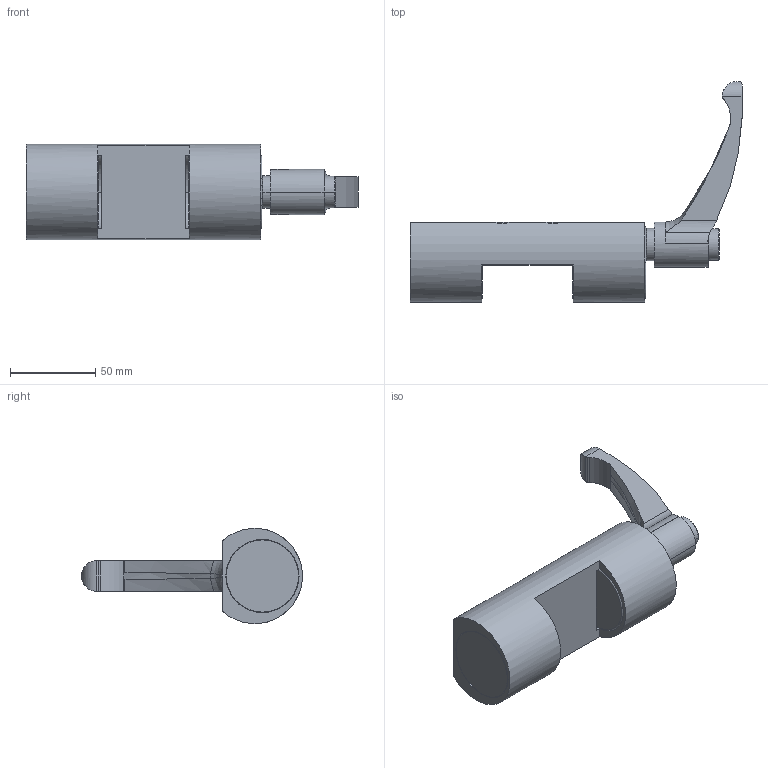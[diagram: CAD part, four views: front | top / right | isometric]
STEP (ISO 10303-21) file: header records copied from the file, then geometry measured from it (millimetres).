
FILE_DESCRIPTION((''),'2;1');
FILE_NAME('FRCMAN55T02LT_SW0001','2016-12-27T',('anacleto.m'),(''),'CREO PARAMETRIC BY PTC INC, 2016050','CREO PARAMETRIC BY PTC INC, 2016050','');
FILE_SCHEMA(('CONFIG_CONTROL_DESIGN'));
Length unit declared in the file: millimetre
Products named in the file (1): FRCMAN55T02LT_SW0001
Bounding box: 195 x 129.75 x 55.9 mm (x, y, z)
Volume: 276386.9 mm3; surface area: 47795 mm2
Topology: 1 solids, 1 shells, 131 faces, 341 edges, 207 vertices
Faces by surface type: cylinder 48, plane 37, cone 32, torus 12, bspline 2
Entity records: 4301 total; most frequent: CARTESIAN_POINT 1085, DIRECTION 695, ORIENTED_EDGE 654, EDGE_CURVE 327, AXIS2_PLACEMENT_3D 279, VERTEX_POINT 207, CIRCLE 150, EDGE_LOOP 142
